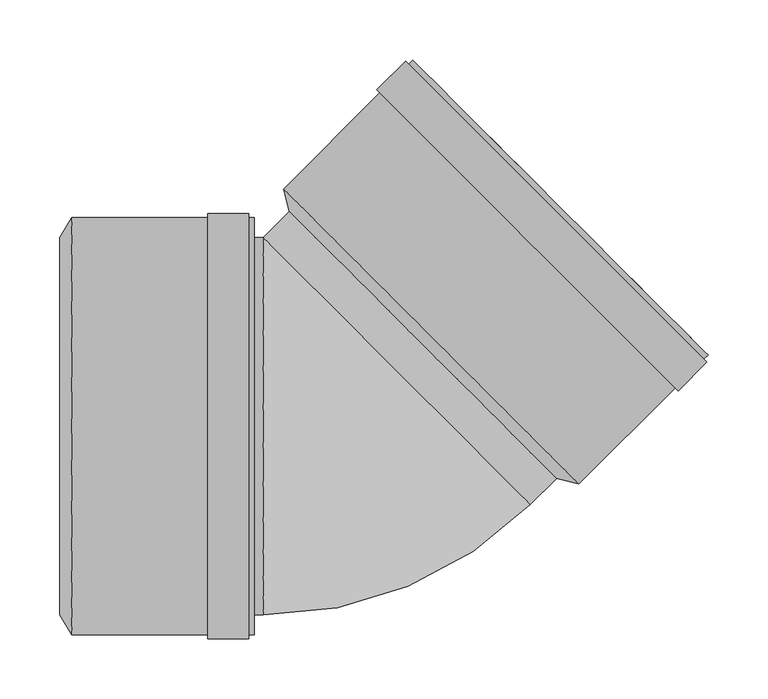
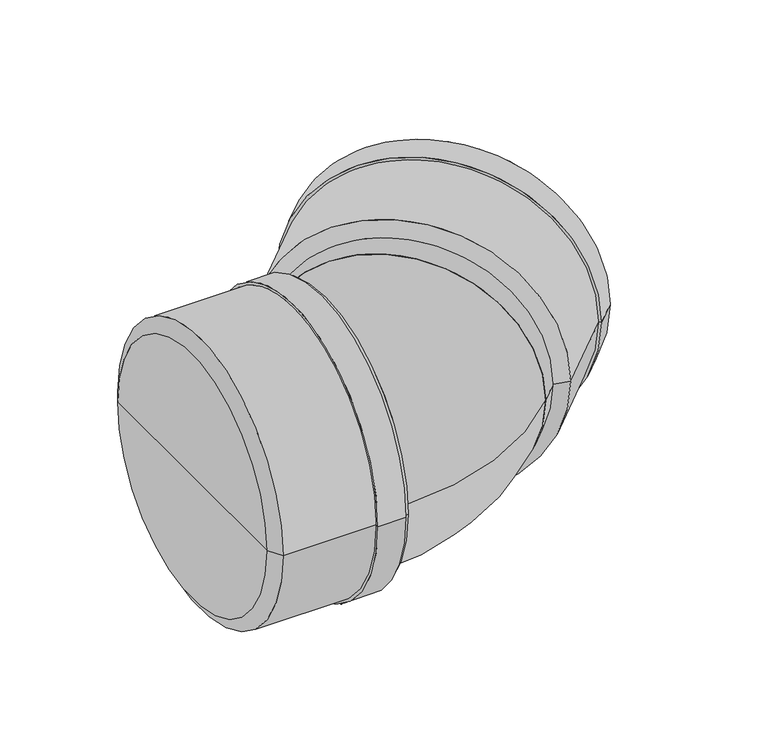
"""IFC4 building model written with IfcOpenShell, lengths in millimetres: pipe fitting geometry, pf_KGB : pf_KGB."""

from ifc_helpers import new_model, si_unit, point, frame, origin, origin_2d, place, context, project, spatial, polyline, circle_curve, ellipse_curve, trimmed, segment, composite_curve, outline, extrude, source, transform, mapped, element, save
from ifc_brep_helpers import plane_surface, cylinder_surface, revolved_surface, advanced_brep


def pipe_fitting_e43abb69(model_context):
    return source(origin(), model_context, "Body", "SolidModel", [
        advanced_brep(
        [(179.1808584, -43.5577777, 0.0), (-43.5577777, 179.1808584, 0.0), (-48.2953932, 197.9191881, 0.0), (197.9191881, -48.2953932, 0.0), (67.8115403, 67.8115403, 0.0), (305.4701295, 59.2555483, 0.0), (59.2555483, 305.4701295, 0.0), (70.9935208, 293.7321569, 0.0), (293.7321569, 70.9935208, 0.0), (55.8614357, 302.0760169, 0.0), (302.0760169, 55.8614357, 0.0), (53.4572727, 304.48018, 0.0), (304.48018, 53.4572727, 0.0), (29.4863528, 280.5092601, 0.0), (280.5092601, 29.4863528, 0.0), (31.8905158, 278.105097, 0.0), (278.105097, 31.8905158, 0.0), (186.1812155, -36.5574206, 0.0), (-36.5574206, 186.1812155, 0.0), (74.8118974, 74.8118974, 0.0)],
        [
            (0, 1, circle_curve(frame((67.8115403, 67.8115403, 0.0), z_axis=(0.7071067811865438, 0.7071067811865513, 0.0), x_axis=(-0.7071067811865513, 0.7071067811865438, 0.0)), 157.5)),
            (1, 2),
            (2, 3, circle_curve(frame((74.8118974, 74.8118974, 0.0), z_axis=(-0.7071067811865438, -0.7071067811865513, 0.0), x_axis=(-0.7071067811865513, 0.7071067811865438, 0.0)), 174.1)),
            (3, 0),
            (1, 0, circle_curve(frame((67.8115403, 67.8115403, 0.0), z_axis=(0.7071067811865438, 0.7071067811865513, 0.0), x_axis=(-0.7071067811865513, 0.7071067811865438, 0.0)), 157.5)),
            (3, 2, circle_curve(frame((74.8118974, 74.8118974, 0.0), z_axis=(-0.7071067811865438, -0.7071067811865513, 0.0), x_axis=(-0.7071067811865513, 0.7071067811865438, 0.0)), 174.1)),
            (4, 1),
            (0, 4),
            (5, 6, circle_curve(frame((182.3628389, 182.3628389, 0.0), z_axis=(0.7071067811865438, 0.7071067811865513, 0.0), x_axis=(-0.7071067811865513, 0.7071067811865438, 0.0)), 174.1)),
            (6, 7),
            (7, 8, circle_curve(frame((182.3628389, 182.3628389, 0.0), z_axis=(-0.7071067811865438, -0.7071067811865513, 0.0), x_axis=(-0.7071067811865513, 0.7071067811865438, 0.0)), 157.5)),
            (8, 5),
            (9, 10, circle_curve(frame((178.9687263, 178.9687263, 0.0), z_axis=(0.7071067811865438, 0.7071067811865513, 0.0), x_axis=(-0.7071067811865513, 0.7071067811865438, 0.0)), 174.1)),
            (10, 5),
            (5, 6, circle_curve(frame((182.3628389, 182.3628389, 0.0), z_axis=(-0.7071067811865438, -0.7071067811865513, 0.0), x_axis=(-0.7071067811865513, 0.7071067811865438, 0.0)), 174.1)),
            (6, 9),
            (11, 12, circle_curve(frame((178.9687263, 178.9687263, 0.0), z_axis=(0.7071067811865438, 0.7071067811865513, 0.0), x_axis=(-0.7071067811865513, 0.7071067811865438, 0.0)), 177.5)),
            (12, 10),
            (9, 11),
            (13, 14, circle_curve(frame((154.9978064, 154.9978064, 0.0), z_axis=(0.7071067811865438, 0.7071067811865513, 0.0), x_axis=(-0.7071067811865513, 0.7071067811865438, 0.0)), 177.5)),
            (14, 12),
            (11, 13),
            (15, 16, circle_curve(frame((154.9978064, 154.9978064, 0.0), z_axis=(0.7071067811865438, 0.7071067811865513, 0.0), x_axis=(-0.7071067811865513, 0.7071067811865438, 0.0)), 174.1)),
            (16, 14),
            (13, 15),
            (8, 7, circle_curve(frame((182.3628389, 182.3628389, 0.0), z_axis=(-0.7071067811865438, -0.7071067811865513, 0.0), x_axis=(-0.7071067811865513, 0.7071067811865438, 0.0)), 157.5)),
            (10, 9, circle_curve(frame((178.9687263, 178.9687263, 0.0), z_axis=(0.7071067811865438, 0.7071067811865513, 0.0), x_axis=(-0.7071067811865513, 0.7071067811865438, 0.0)), 174.1)),
            (12, 11, circle_curve(frame((178.9687263, 178.9687263, 0.0), z_axis=(0.7071067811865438, 0.7071067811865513, 0.0), x_axis=(-0.7071067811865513, 0.7071067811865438, 0.0)), 177.5)),
            (14, 13, circle_curve(frame((154.9978064, 154.9978064, 0.0), z_axis=(0.7071067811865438, 0.7071067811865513, 0.0), x_axis=(-0.7071067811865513, 0.7071067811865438, 0.0)), 177.5)),
            (16, 15, circle_curve(frame((154.9978064, 154.9978064, 0.0), z_axis=(0.7071067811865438, 0.7071067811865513, 0.0), x_axis=(-0.7071067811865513, 0.7071067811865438, 0.0)), 174.1)),
            (2, 15),
            (16, 3),
            (17, 18, circle_curve(frame((74.8118974, 74.8118974, 0.0), z_axis=(0.7071067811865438, 0.7071067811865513, 0.0), x_axis=(-0.7071067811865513, 0.7071067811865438, 0.0)), 157.5)),
            (18, 19),
            (19, 17),
            (18, 17, circle_curve(frame((74.8118974, 74.8118974, 0.0), z_axis=(0.7071067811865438, 0.7071067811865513, 0.0), x_axis=(-0.7071067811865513, 0.7071067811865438, 0.0)), 157.5)),
            (7, 18),
            (17, 8),
        ],
        [
            revolved_surface(polyline([(-48.2953932, 197.9191881, 0.0), (-43.5577777, 179.1808584, 0.0)]), (67.8115403, 67.8115403, 0.0), (-0.7071067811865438, -0.7071067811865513, 0.0)),
            plane_surface(frame((67.8115403, 67.8115403, 0.0), z_axis=(-0.7071067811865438, -0.7071067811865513, 0.0), x_axis=(-0.7071067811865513, 0.7071067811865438, 0.0))),
            plane_surface(frame((182.3628389, 182.3628389, 0.0), z_axis=(0.7071067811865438, 0.7071067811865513, 0.0), x_axis=(-0.7071067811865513, 0.7071067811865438, 0.0))),
            cylinder_surface(frame((67.8115403, 67.8115403, 0.0), z_axis=(-0.7071067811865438, -0.7071067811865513, 0.0), x_axis=(-0.7071067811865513, 0.7071067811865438, 0.0)), 174.1),
            plane_surface(frame((178.9687263, 178.9687263, 0.0), z_axis=(0.7071067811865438, 0.7071067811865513, 0.0), x_axis=(-0.7071067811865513, 0.7071067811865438, 0.0))),
            cylinder_surface(frame((67.8115403, 67.8115403, 0.0), z_axis=(-0.7071067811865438, -0.7071067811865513, 0.0), x_axis=(-0.7071067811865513, 0.7071067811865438, 0.0)), 177.5),
            plane_surface(frame((154.9978064, 154.9978064, 0.0), z_axis=(-0.7071067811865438, -0.7071067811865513, 0.0), x_axis=(-0.7071067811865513, 0.7071067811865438, 0.0))),
            plane_surface(frame((74.8118974, 74.8118974, 0.0), z_axis=(0.7071067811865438, 0.7071067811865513, 0.0), x_axis=(-0.7071067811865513, 0.7071067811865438, 0.0))),
            revolved_surface(polyline([(-36.557420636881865, 186.18121543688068, 0.0), (70.9935208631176, 293.7321569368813, 0.0)]), (67.8115403, 67.8115403, 0.0), (-0.7071067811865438, -0.7071067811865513, 0.0)),
        ],
        [
            (0, [[1, 2, 3, 4]]),
            (0, [[5, -4, 6, -2]]),
            (1, [[7, -1, 8]]),
            (1, [[-8, -5, -7]]),
            (2, [[9, 10, 11, 12]]),
            (3, [[13, 14, 15, 16]]),
            (4, [[17, 18, -13, 19]]),
            (5, [[20, 21, -17, 22]]),
            (6, [[23, 24, -20, 25]]),
            (2, [[-15, -12, 26, -10]]),
            (3, [[27, -16, -9, -14]]),
            (4, [[28, -19, -27, -18]]),
            (5, [[29, -22, -28, -21]]),
            (6, [[30, -25, -29, -24]]),
            (3, [[-3, 31, -30, 32]]),
            (3, [[-6, -32, -23, -31]]),
            (7, [[33, 34, 35]]),
            (7, [[36, -35, -34]]),
            (8, [[-11, 37, -33, 38]]),
            (8, [[-26, -38, -36, -37]]),
        ],
    ),
        advanced_brep(
        [(-234.7, -157.5, 0.0), (-234.7, 157.5, 0.0), (-224.8, 174.1, 0.0), (-224.8, -174.1, 0.0), (-234.7, 0.0, 0.0), (-72.7, -174.1, 0.0), (-72.7, 174.1, 0.0), (-72.7, 157.5, 0.0), (-72.7, -157.5, 0.0), (-77.5, 174.1, 0.0), (-77.5, -174.1, 0.0), (-77.5, 177.5, 0.0), (-77.5, -177.5, 0.0), (-111.4, 177.5, 0.0), (-111.4, -177.5, 0.0), (-111.4, 174.1, 0.0), (-111.4, -174.1, 0.0), (-224.8, -157.5, 0.0), (-224.8, 157.5, 0.0), (-224.8, 0.0, 0.0)],
        [
            (0, 1, circle_curve(frame((-234.7, 0.0, 0.0), z_axis=(1.0, 0.0, 0.0), x_axis=(0.0, 1.0, 0.0)), 157.5)),
            (1, 2),
            (2, 3, circle_curve(frame((-224.8, 0.0, 0.0), z_axis=(-1.0, 0.0, 0.0), x_axis=(0.0, 1.0, 0.0)), 174.1)),
            (3, 0),
            (1, 0, circle_curve(frame((-234.7, 0.0, 0.0), z_axis=(1.0, 0.0, 0.0), x_axis=(0.0, 1.0, 0.0)), 157.5)),
            (3, 2, circle_curve(frame((-224.8, 0.0, 0.0), z_axis=(-1.0, 0.0, 0.0), x_axis=(0.0, 1.0, 0.0)), 174.1)),
            (4, 1),
            (0, 4),
            (5, 6, circle_curve(frame((-72.7, 0.0, 0.0), z_axis=(1.0, 0.0, 0.0), x_axis=(0.0, 1.0, 0.0)), 174.1)),
            (6, 7),
            (7, 8, circle_curve(frame((-72.7, 0.0, 0.0), z_axis=(-1.0, 0.0, 0.0), x_axis=(0.0, 1.0, 0.0)), 157.5)),
            (8, 5),
            (9, 10, circle_curve(frame((-77.5, 0.0, 0.0), z_axis=(1.0, 0.0, 0.0), x_axis=(0.0, 1.0, 0.0)), 174.1)),
            (10, 5),
            (5, 6, circle_curve(frame((-72.7, 0.0, 0.0), z_axis=(-1.0, 0.0, 0.0), x_axis=(0.0, 1.0, 0.0)), 174.1)),
            (6, 9),
            (11, 12, circle_curve(frame((-77.5, 0.0, 0.0), z_axis=(1.0, 0.0, 0.0), x_axis=(0.0, 1.0, 0.0)), 177.5)),
            (12, 10),
            (9, 11),
            (13, 14, circle_curve(frame((-111.4, 0.0, 0.0), z_axis=(1.0, 0.0, 0.0), x_axis=(0.0, 1.0, 0.0)), 177.5)),
            (14, 12),
            (11, 13),
            (15, 16, circle_curve(frame((-111.4, 0.0, 0.0), z_axis=(1.0, 0.0, 0.0), x_axis=(0.0, 1.0, 0.0)), 174.1)),
            (16, 14),
            (13, 15),
            (8, 7, circle_curve(frame((-72.7, 0.0, 0.0), z_axis=(-1.0, 0.0, 0.0), x_axis=(0.0, 1.0, 0.0)), 157.5)),
            (10, 9, circle_curve(frame((-77.5, 0.0, 0.0), z_axis=(1.0, 0.0, 0.0), x_axis=(0.0, 1.0, 0.0)), 174.1)),
            (12, 11, circle_curve(frame((-77.5, 0.0, 0.0), z_axis=(1.0, 0.0, 0.0), x_axis=(0.0, 1.0, 0.0)), 177.5)),
            (14, 13, circle_curve(frame((-111.4, 0.0, 0.0), z_axis=(1.0, 0.0, 0.0), x_axis=(0.0, 1.0, 0.0)), 177.5)),
            (16, 15, circle_curve(frame((-111.4, 0.0, 0.0), z_axis=(1.0, 0.0, 0.0), x_axis=(0.0, 1.0, 0.0)), 174.1)),
            (2, 15),
            (16, 3),
            (17, 18, circle_curve(frame((-224.8, 0.0, 0.0), z_axis=(1.0, 0.0, 0.0), x_axis=(0.0, 1.0, 0.0)), 157.5)),
            (18, 19),
            (19, 17),
            (18, 17, circle_curve(frame((-224.8, 0.0, 0.0), z_axis=(1.0, 0.0, 0.0), x_axis=(0.0, 1.0, 0.0)), 157.5)),
            (7, 18),
            (17, 8),
        ],
        [
            revolved_surface(polyline([(-224.8, 174.1, 0.0), (-234.7, 157.5, 0.0)]), (-234.7, 0.0, 0.0), (-1.0, 0.0, 0.0)),
            plane_surface(frame((-234.7, 0.0, 0.0), z_axis=(-1.0, 0.0, 0.0), x_axis=(0.0, 1.0, 0.0))),
            plane_surface(frame((-72.7, 0.0, 0.0), z_axis=(1.0, 0.0, 0.0), x_axis=(0.0, 1.0, 0.0))),
            cylinder_surface(frame((-234.7, 0.0, 0.0), z_axis=(-1.0, 0.0, 0.0), x_axis=(0.0, 1.0, 0.0)), 174.1),
            plane_surface(frame((-77.5, 0.0, 0.0), z_axis=(1.0, 0.0, 0.0), x_axis=(0.0, 1.0, 0.0))),
            cylinder_surface(frame((-234.7, 0.0, 0.0), z_axis=(-1.0, 0.0, 0.0), x_axis=(0.0, 1.0, 0.0)), 177.5),
            plane_surface(frame((-111.4, 0.0, 0.0), z_axis=(-1.0, 0.0, 0.0), x_axis=(0.0, 1.0, 0.0))),
            plane_surface(frame((-224.8, 0.0, 0.0), z_axis=(1.0, 0.0, 0.0), x_axis=(0.0, 1.0, 0.0))),
            revolved_surface(polyline([(-224.8, 157.5, 0.0), (-72.69999999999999, 157.5, 0.0)]), (-234.7, 0.0, 0.0), (-1.0, 0.0, 0.0)),
        ],
        [
            (0, [[1, 2, 3, 4]]),
            (0, [[5, -4, 6, -2]]),
            (1, [[7, -1, 8]]),
            (1, [[-8, -5, -7]]),
            (2, [[9, 10, 11, 12]]),
            (3, [[13, 14, 15, 16]]),
            (4, [[17, 18, -13, 19]]),
            (5, [[20, 21, -17, 22]]),
            (6, [[23, 24, -20, 25]]),
            (2, [[-15, -12, 26, -10]]),
            (3, [[27, -16, -9, -14]]),
            (4, [[28, -19, -27, -18]]),
            (5, [[29, -22, -28, -21]]),
            (6, [[30, -25, -29, -24]]),
            (3, [[-3, 31, -30, 32]]),
            (3, [[-6, -32, -23, -31]]),
            (7, [[33, 34, 35]]),
            (7, [[36, -35, -34]]),
            (8, [[-11, 37, -33, 38]]),
            (8, [[-26, -38, -36, -37]]),
        ],
    ),
        extrude(outline(composite_curve([segment(trimmed(circle_curve(origin_2d(), 157.5), [point((0.0, -157.5))], [point((0.0, 157.5))], False, "CARTESIAN"), True, "CONTINUOUS"), segment(trimmed(circle_curve(origin_2d(), 157.5), [point((0.0, 157.5))], [point((0.0, -157.5))], False, "CARTESIAN"), True, "CONTINUOUS")], self_intersect=False)), frame((46.130682, 46.130682, 0.0), z_axis=(0.7071067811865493, 0.7071067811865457, 0.0), x_axis=(0.0, 0.0, 1.0)), (0.0, 0.0, 1.0), 30.6613639),
        extrude(outline(composite_curve([segment(trimmed(circle_curve(origin_2d(), 157.5), [point((-157.5, 0.0))], [point((157.5, 0.0))], False, "CARTESIAN"), True, "CONTINUOUS"), segment(trimmed(circle_curve(origin_2d(), 157.5), [point((157.5, 0.0))], [point((-157.5, 0.0))], False, "CARTESIAN"), True, "CONTINUOUS")], self_intersect=False)), frame((-224.8, 0.0, 0.0), z_axis=(1.0, 0.0, 0.0), x_axis=(0.0, 1.0, 0.0)), (0.0, 0.0, 1.0), 159.5613639),
        advanced_brep(
        [(-65.2386361, -157.5, 0.0), (-65.2386361, 157.5, 0.0), (157.5, -65.2386361, 0.0)],
        [
            (0, 1, circle_curve(frame((-65.2386361, 0.0, 0.0), z_axis=(-1.0, 0.0, 0.0), x_axis=(0.0, 1.0, 0.0)), 157.5)),
            (1, 0, circle_curve(frame((-65.2386361, 0.0, 0.0), z_axis=(-1.0, 0.0, 0.0), x_axis=(0.0, 1.0, 0.0)), 157.5)),
            (2, 1, circle_curve(frame((46.130682, 46.130682, 0.0), z_axis=(0.7071067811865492, 0.7071067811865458, 0.0), x_axis=(-0.7071067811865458, 0.7071067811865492, 0.0)), 157.5)),
            (1, 2, circle_curve(frame((46.130682, 46.130682, 0.0), z_axis=(0.7071067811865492, 0.7071067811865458, 0.0), x_axis=(-0.7071067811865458, 0.7071067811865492, 0.0)), 157.5)),
            (2, 0, circle_curve(frame((-65.2386361, 157.5, 0.0), z_axis=(0.0, 0.0, -1.0), x_axis=(0.0, -1.0, 0.0)), 315.0)),
        ],
        [
            plane_surface(frame((-65.2386361, 157.5, -14.8), z_axis=(-1.0, 0.0, 0.0), x_axis=(0.0, -1.0, 0.0))),
            plane_surface(frame((-65.2386361, 157.5, -14.8), z_axis=(0.7071067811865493, 0.7071067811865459, 0.0), x_axis=(0.7071067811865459, -0.7071067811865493, 0.0))),
            revolved_surface(trimmed(ellipse_curve(frame((-65.2386361, 0.0, 0.0), z_axis=(1.0, 0.0, 0.0), x_axis=(0.0, 1.0, 0.0)), 157.5, 157.5), [point((-65.2386361, -157.5, 0.0))], [point((-65.2386361, 157.5, 0.0))], True, "CARTESIAN"), (-65.2386361, 157.5, -14.8), (0.0, 0.0, -1.0)),
            revolved_surface(trimmed(ellipse_curve(frame((-65.2386361, 0.0, 0.0), z_axis=(1.0, 0.0, 0.0), x_axis=(0.0, 1.0, 0.0)), 157.5, 157.5), [point((-65.2386361, 157.5, 0.0))], [point((-65.2386361, -157.5, 0.0))], True, "CARTESIAN"), (-65.2386361, 157.5, -14.8), (0.0, 0.0, -1.0)),
        ],
        [
            (0, [[1, 2]]),
            (1, [[3, 4]]),
            (2, [[5, -2, -3]]),
            (3, [[-1, -5, -4]]),
        ],
    ),
    ])


if __name__ == "__main__":
    model = new_model("IFC4")
    model_context = context("Model", 3, world=origin())
    ifc_project = project(units=[si_unit("LENGTHUNIT", "METRE", prefix="MILLI")], contexts=[model_context])
    site = spatial("IfcSite", under=ifc_project)
    building = spatial("IfcBuilding", under=site)
    placement = place(None, origin())
    pipe_fitting_shape = pipe_fitting_e43abb69(model_context)
    element("IfcPipeFitting", 1, ObjectType="pf_KGB : pf_KGB", at=placement, inside=building, context=model_context, shape_type="MappedRepresentation", body=[
        mapped(pipe_fitting_shape, transform((0.0, 0.0, 0.0), x_axis=(1.0, 0.0, 0.0), y_axis=(0.0, 1.0, 0.0), z_axis=(0.0, 0.0, 1.0))),
    ])
    save(model, "model.ifc")
